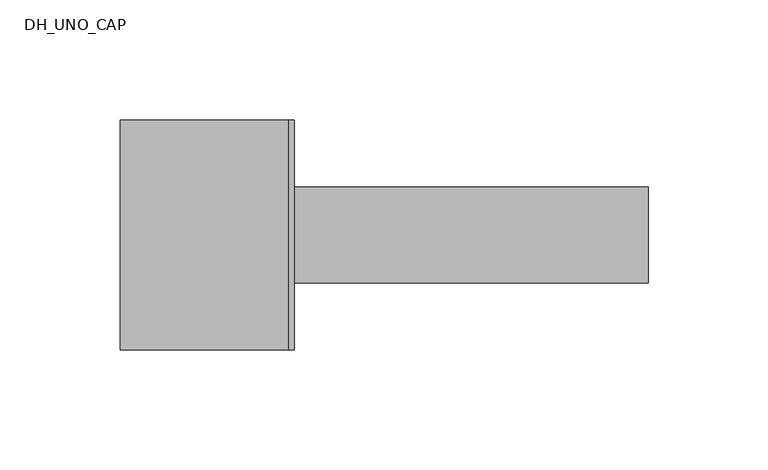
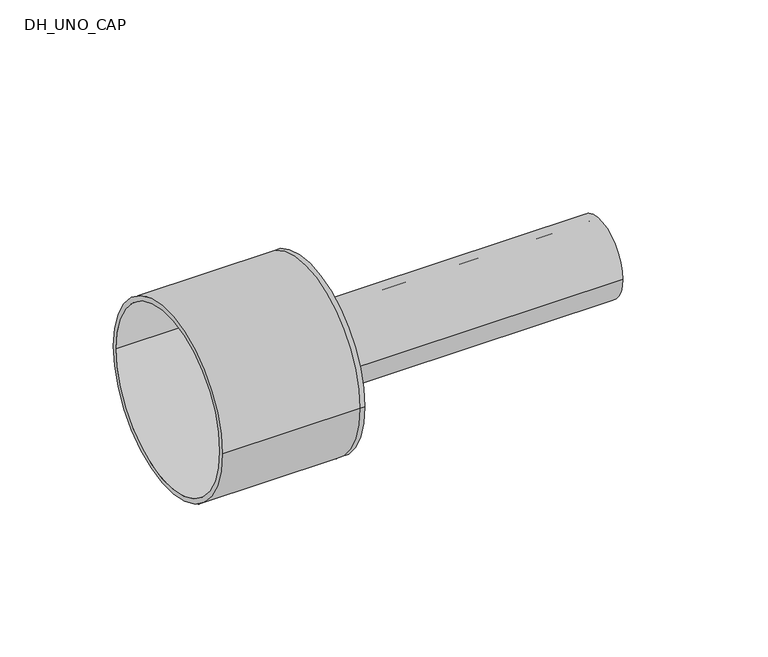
"""IFC4 building model written with IfcOpenShell, lengths in millimetres: pipe fitting geometry, DH_UNO_CAP : RAUTHERMEX UNO 11 COOL - Solid Cap."""

from ifc_helpers import new_model, si_unit, point, frame, origin, origin_2d, place, context, project, spatial, polyline, circle_curve, trimmed, segment, composite_curve, outline, extrude, source, transform, mapped, element, save
from ifc_brep_helpers import plane_surface, cylinder_surface, revolved_surface, advanced_brep


def dh_uno_cap_9742cd2a(model_context):
    return source(origin(), model_context, "Body", "SolidModel", [
        extrude(outline(composite_curve([segment(trimmed(circle_curve(origin_2d(), 20.0), [point((-20.0, 0.0))], [point((20.0, 0.0))], False, "CARTESIAN"), True, "CONTINUOUS"), segment(trimmed(circle_curve(origin_2d(), 20.0), [point((20.0, 0.0))], [point((-20.0, 0.0))], False, "CARTESIAN"), True, "CONTINUOUS")], self_intersect=False), holes=[composite_curve([segment(trimmed(circle_curve(origin_2d(), 16.3), [point((-16.3, 0.0))], [point((16.3, 0.0))], True, "CARTESIAN"), True, "CONTINUOUS"), segment(trimmed(circle_curve(origin_2d(), 16.3), [point((16.3, 0.0))], [point((-16.3, 0.0))], True, "CARTESIAN"), True, "CONTINUOUS")], self_intersect=False)]), frame((0.0, 0.0, 0.0), z_axis=(1.0, 0.0, 0.0), x_axis=(0.0, 1.0, 0.0)), (0.0, 0.0, 1.0), 150.0),
        advanced_brep(
        [(-70.0, -48.0, 0.0), (-70.0, 48.0, 0.0), (-70.0, -45.5, 0.0), (-70.0, 45.5, 0.0), (0.0, -45.5, 0.0), (0.0, 45.5, 0.0), (0.0, -48.0, 0.0), (0.0, 48.0, 0.0), (0.0, 20.0, 0.0), (0.0, -20.0, 0.0), (2.5, -48.0, 0.0), (2.5, 48.0, 0.0), (2.5, -20.0, 0.0), (2.5, 20.0, 0.0)],
        [
            (0, 1, circle_curve(frame((-70.0, 0.0, 0.0), z_axis=(-1.0, 0.0, 0.0), x_axis=(0.0, 1.0, 0.0)), 48.0)),
            (1, 0, circle_curve(frame((-70.0, 0.0, 0.0), z_axis=(-1.0, 0.0, 0.0), x_axis=(0.0, 1.0, 0.0)), 48.0)),
            (2, 3, circle_curve(frame((-70.0, 0.0, 0.0), z_axis=(1.0, 0.0, 0.0), x_axis=(0.0, 1.0, 0.0)), 45.5)),
            (3, 2, circle_curve(frame((-70.0, 0.0, 0.0), z_axis=(1.0, 0.0, 0.0), x_axis=(0.0, 1.0, 0.0)), 45.5)),
            (2, 4),
            (4, 5, circle_curve(frame((0.0, 0.0, 0.0), z_axis=(1.0, 0.0, 0.0), x_axis=(0.0, 1.0, 0.0)), 45.5)),
            (5, 3),
            (5, 4, circle_curve(frame((0.0, 0.0, 0.0), z_axis=(1.0, 0.0, 0.0), x_axis=(0.0, 1.0, 0.0)), 45.5)),
            (0, 6),
            (6, 7, circle_curve(frame((0.0, 0.0, 0.0), z_axis=(-1.0, 0.0, 0.0), x_axis=(0.0, 1.0, 0.0)), 48.0)),
            (7, 1),
            (7, 6, circle_curve(frame((0.0, 0.0, 0.0), z_axis=(-1.0, 0.0, 0.0), x_axis=(0.0, 1.0, 0.0)), 48.0)),
            (8, 9, circle_curve(frame((0.0, 0.0, 0.0), z_axis=(1.0, 0.0, 0.0), x_axis=(0.0, 1.0, 0.0)), 20.0)),
            (9, 8, circle_curve(frame((0.0, 0.0, 0.0), z_axis=(1.0, 0.0, 0.0), x_axis=(0.0, 1.0, 0.0)), 20.0)),
            (10, 11, circle_curve(frame((2.5, 0.0, 0.0), z_axis=(1.0, 0.0, 0.0), x_axis=(0.0, 1.0, 0.0)), 48.0)),
            (11, 10, circle_curve(frame((2.5, 0.0, 0.0), z_axis=(1.0, 0.0, 0.0), x_axis=(0.0, 1.0, 0.0)), 48.0)),
            (12, 13, circle_curve(frame((2.5, 0.0, 0.0), z_axis=(-1.0, 0.0, 0.0), x_axis=(0.0, 1.0, 0.0)), 20.0)),
            (13, 12, circle_curve(frame((2.5, 0.0, 0.0), z_axis=(-1.0, 0.0, 0.0), x_axis=(0.0, 1.0, 0.0)), 20.0)),
            (11, 7),
            (6, 10),
            (8, 13),
            (12, 9),
        ],
        [
            plane_surface(frame((-70.0, 0.0, 0.0), z_axis=(-1.0, 0.0, 0.0), x_axis=(0.0, 0.0, 1.0))),
            revolved_surface(polyline([(0.0, 45.5, 0.0), (-70.0, 45.5, 0.0)]), (-70.0, 0.0, 0.0), (1.0, 0.0, 0.0)),
            cylinder_surface(frame((-70.0, 0.0, 0.0), z_axis=(-1.0, 0.0, 0.0), x_axis=(0.0, 1.0, 0.0)), 48.0),
            plane_surface(frame((0.0, 0.0, 0.0), z_axis=(-1.0, 0.0, 0.0), x_axis=(0.0, 0.0, 1.0))),
            plane_surface(frame((2.5, 0.0, 0.0), z_axis=(1.0, 0.0, 0.0), x_axis=(0.0, 0.0, 1.0))),
            cylinder_surface(frame((0.0, 0.0, 0.0), z_axis=(-1.0, 0.0, 0.0), x_axis=(0.0, 1.0, 0.0)), 48.0),
            revolved_surface(polyline([(0.0, 20.0, 0.0), (2.5, 20.0, 0.0)]), (0.0, 0.0, 0.0), (-1.0, 0.0, 0.0)),
        ],
        [
            (0, [[1, 2], [3, 4]]),
            (1, [[-3, 5, 6, 7]]),
            (1, [[-4, -7, 8, -5]]),
            (2, [[-1, 9, 10, 11]]),
            (2, [[-2, -11, 12, -9]]),
            (3, [[-6, -8], [13, 14]]),
            (4, [[15, 16], [17, 18]]),
            (5, [[-16, 19, -10, 20]]),
            (5, [[-15, -20, -12, -19]]),
            (6, [[21, -17, 22, -13]]),
            (6, [[-21, -14, -22, -18]]),
        ],
    ),
    ])


if __name__ == "__main__":
    model = new_model("IFC4")
    model_context = context("Model", 3, world=origin())
    ifc_project = project(units=[si_unit("LENGTHUNIT", "METRE", prefix="MILLI")], contexts=[model_context])
    site = spatial("IfcSite", under=ifc_project)
    building = spatial("IfcBuilding", under=site)
    placement = place(None, origin())
    dh_uno_cap_shape = dh_uno_cap_9742cd2a(model_context)
    element("IfcPipeFitting", 1, ObjectType="DH_UNO_CAP : RAUTHERMEX UNO 11 COOL - Solid Cap", at=placement, inside=building, context=model_context, shape_type="MappedRepresentation", body=[
        mapped(dh_uno_cap_shape, transform((0.0, 0.0, 0.0), x_axis=(1.0, 0.0, 0.0), y_axis=(0.0, 1.0, 0.0), z_axis=(0.0, 0.0, 1.0))),
    ])
    save(model, "model.ifc")
